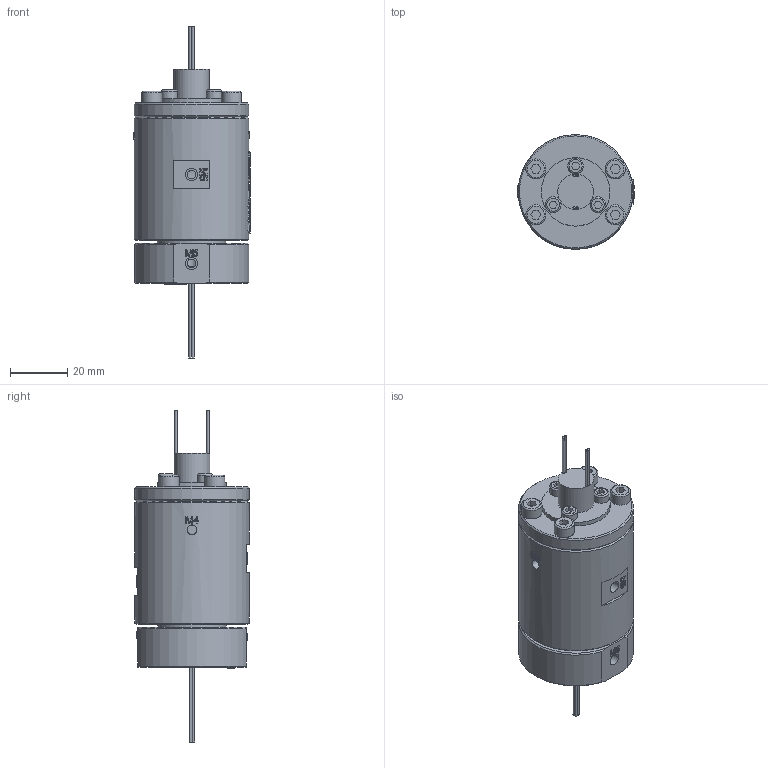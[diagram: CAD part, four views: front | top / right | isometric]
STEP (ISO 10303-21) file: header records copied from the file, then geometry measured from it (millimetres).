
FILE_DESCRIPTION(/* description */ (''),/* implementation_level */ '2;1');
FILE_NAME(/* name */ 'YQ02005-04M.stp',/* time_stamp */ '2025-09-01T09:45:32+08:00',/* author */ (''),/* organization */ (''),/* preprocessor_version */ 'ST-DEVELOPER v16.7',/* originating_system */ 'SIEMENS PLM Software NX 12.0',/* authorisation */ '');
FILE_SCHEMA (('AUTOMOTIVE_DESIGN { 1 0 10303 214 3 1 1 1 }'));
Length unit declared in the file: millimetre
Products named in the file (1): Admi1DF097DFvvqy
Bounding box: 40.7 x 40 x 115.8 mm (x, y, z)
Volume: 79370.9 mm3; surface area: 15677.7 mm2
Topology: 1 solids, 9 shells, 1149 faces, 3098 edges, 2062 vertices
Faces by surface type: extrusion 524, plane 477, cylinder 75, bspline 45, cone 21, torus 7
Full cylindrical faces by diameter (mm): 0.8 x8, 3 x7, 3.4 x9, 4 x6, 4.1 x2, 4.2 x6, 5 x1, 5.5 x3, 6 x1, 7 x4, 12.4 x1, 23.9 x1, 24 x1, 32 x1, 40 x2
Entity records: 44531 total; most frequent: CARTESIAN_POINT 20219, ORIENTED_EDGE 5950, EDGE_CURVE 2975, DIRECTION 2851, B_SPLINE_CURVE_WITH_KNOTS 2639, VERTEX_POINT 2024, EDGE_LOOP 1345, ADVANCED_FACE 1149
